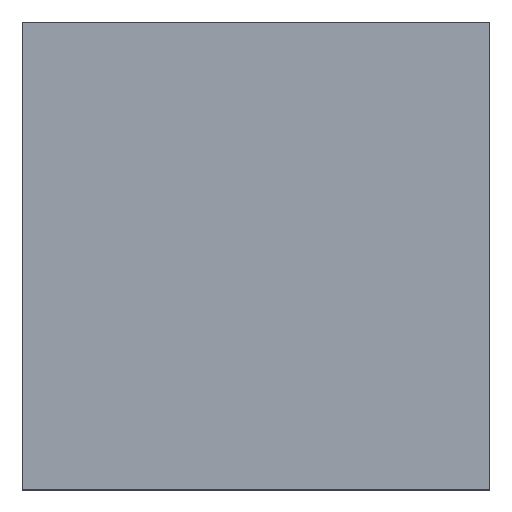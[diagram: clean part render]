
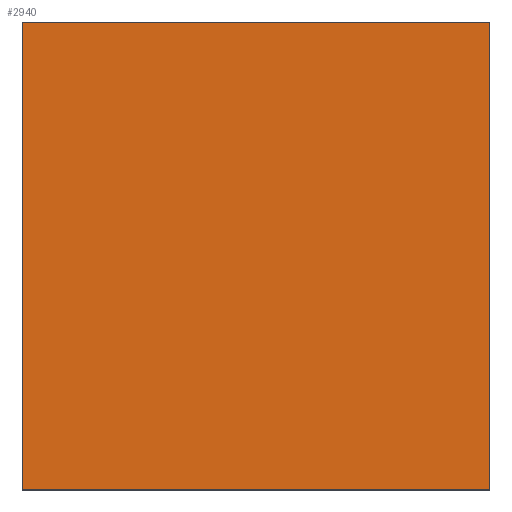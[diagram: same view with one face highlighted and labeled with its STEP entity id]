
A CAD part, top view. The second image highlights one B-rep face of the part: STEP entity #2940.
In plain terms, the highlighted planar face has unit normal (0, 0, 1).
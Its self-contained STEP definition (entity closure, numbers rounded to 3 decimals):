
#120 = CARTESIAN_POINT ('', (12.5, -12.5, 7.5));
#130 = VERTEX_POINT ('', #120);
#190 = CARTESIAN_POINT ('', (-12.5, -12.5, 7.5));
#200 = VERTEX_POINT ('', #190);
#210 = CARTESIAN_POINT ('', (-12.5, -12.5, 7.5));
#220 = CARTESIAN_POINT ('', (-4.167, -12.5, 7.5));
#230 = CARTESIAN_POINT ('', (4.167, -12.5, 7.5));
#240 = CARTESIAN_POINT ('', (12.5, -12.5, 7.5));
#250 = B_SPLINE_CURVE_WITH_KNOTS ('', 3, (#210, #220, #230, #240), .UNSPECIFIED., .F., .U., (4, 4), (0., 25.), .UNSPECIFIED.);
#260 = EDGE_CURVE ('', #200, #130, #250, .T.);
#620 = CARTESIAN_POINT ('', (12.5, 12.5, 7.5));
#630 = VERTEX_POINT ('', #620);
#690 = CARTESIAN_POINT ('', (12.5, -12.5, 7.5));
#700 = CARTESIAN_POINT ('', (12.5, -4.167, 7.5));
#710 = CARTESIAN_POINT ('', (12.5, 4.167, 7.5));
#720 = CARTESIAN_POINT ('', (12.5, 12.5, 7.5));
#730 = B_SPLINE_CURVE_WITH_KNOTS ('', 3, (#690, #700, #710, #720), .UNSPECIFIED., .F., .U., (4, 4), (0., 25.), .UNSPECIFIED.);
#740 = EDGE_CURVE ('', #130, #630, #730, .T.);
#1220 = CARTESIAN_POINT ('', (-12.5, 12.5, 7.5));
#1230 = VERTEX_POINT ('', #1220);
#1290 = CARTESIAN_POINT ('', (12.5, 12.5, 7.5));
#1300 = CARTESIAN_POINT ('', (4.167, 12.5, 7.5));
#1310 = CARTESIAN_POINT ('', (-4.167, 12.5, 7.5));
#1320 = CARTESIAN_POINT ('', (-12.5, 12.5, 7.5));
#1330 = B_SPLINE_CURVE_WITH_KNOTS ('', 3, (#1290, #1300, #1310, #1320), .UNSPECIFIED., .F., .U., (4, 4), (0., 25.), .UNSPECIFIED.);
#1340 = EDGE_CURVE ('', #630, #1230, #1330, .T.);
#1650 = CARTESIAN_POINT ('', (-12.5, 12.5, 7.5));
#1660 = CARTESIAN_POINT ('', (-12.5, 4.167, 7.5));
#1670 = CARTESIAN_POINT ('', (-12.5, -4.167, 7.5));
#1680 = CARTESIAN_POINT ('', (-12.5, -12.5, 7.5));
#1690 = B_SPLINE_CURVE_WITH_KNOTS ('', 3, (#1650, #1660, #1670, #1680), .UNSPECIFIED., .F., .U., (4, 4), (0., 25.), .UNSPECIFIED.);
#1700 = EDGE_CURVE ('', #1230, #200, #1690, .T.);
#2830 = ORIENTED_EDGE ('', *, *, #260, .T.);
#2840 = ORIENTED_EDGE ('', *, *, #740, .T.);
#2850 = ORIENTED_EDGE ('', *, *, #1340, .T.);
#2860 = ORIENTED_EDGE ('', *, *, #1700, .T.);
#2870 = EDGE_LOOP ('', (#2830, #2840, #2850, #2860));
#2880 = FACE_OUTER_BOUND ('', #2870, .T.);
#2890 = CARTESIAN_POINT ('', (0., 25.704, 7.5));
#2900 = DIRECTION ('', (0., 0., 1.));
#2910 = DIRECTION ('', (-0.707, -0.707, 0.));
#2920 = AXIS2_PLACEMENT_3D ('', #2890, #2900, #2910);
#2930 = PLANE ('', #2920);
#2940 = ADVANCED_FACE ('', (#2880), #2930, .T.);
